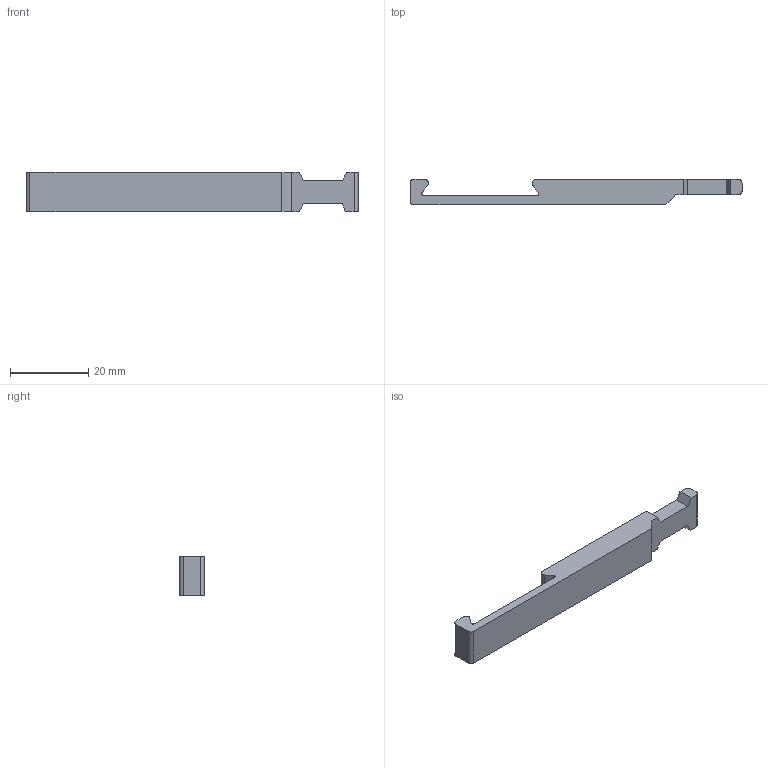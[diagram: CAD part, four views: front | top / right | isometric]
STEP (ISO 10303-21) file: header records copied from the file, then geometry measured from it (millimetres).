
FILE_DESCRIPTION((''),'2;1');
FILE_NAME('T:\technik\3D\STEP\KOLIBRI\KOLIBRI_40_062_2\HORNSTEG HS85.stp','2009-08-07T09:07:38',('UebbingXP'),(''),'Autodesk Inventor 10','Autodesk Inventor 10','');
FILE_SCHEMA(('AUTOMOTIVE_DESIGN { 1 0 10303 214 1 1 1 1 }'));
Length unit declared in the file: millimetre
Products named in the file (1): HORNSTEG HS85 
Bounding box: 85 x 6.5 x 10 mm (x, y, z)
Volume: 3704.4 mm3; surface area: 2622.7 mm2
Topology: 1 solids, 1 shells, 28 faces, 78 edges, 52 vertices
Faces by surface type: plane 20, cylinder 8
Entity records: 921 total; most frequent: CARTESIAN_POINT 159, ORIENTED_EDGE 156, DIRECTION 152, EDGE_CURVE 78, VECTOR 62, LINE 62, VERTEX_POINT 52, AXIS2_PLACEMENT_3D 45
